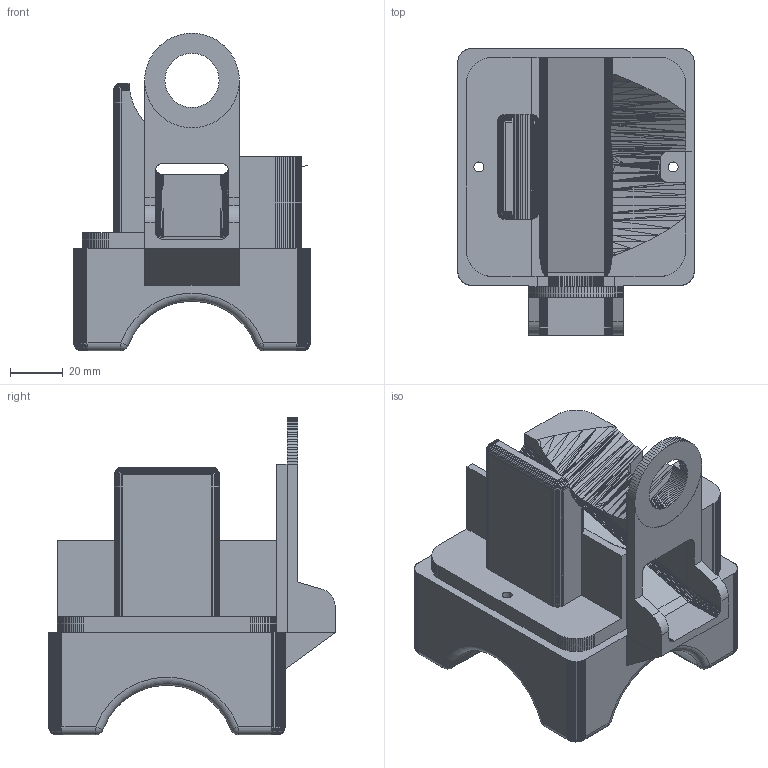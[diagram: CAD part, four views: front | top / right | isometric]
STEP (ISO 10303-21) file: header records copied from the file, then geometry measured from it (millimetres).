
FILE_DESCRIPTION(/* description */ (''),/* implementation_level */ '2;1');
FILE_NAME(/* name */ 'Base_Hole.step',/* time_stamp */ '2022-10-31T08:53:21+03:00',/* author */ (''),/* organization */ (''),/* preprocessor_version */ 'ST-DEVELOPER v19.2',/* originating_system */ 'Autodesk Translation Framework v11.17.0.187',/* authorisation */ '');
FILE_SCHEMA (('AUTOMOTIVE_DESIGN { 1 0 10303 214 3 1 1 }'));
Length unit declared in the file: millimetre
Products named in the file (1): Candy_Machine-_Mason-_Base (1)
Bounding box: 90 x 109.09 x 121 mm (x, y, z)
Volume: 387385.4 mm3; surface area: 68599.6 mm2
Topology: 5 solids, 5 shells, 1897 faces, 4304 edges, 2412 vertices
Faces by surface type: plane 1742, cylinder 135, sphere 12, torus 4, bspline 4
Full cylindrical faces by diameter (mm): 3.8 x4, 8.6 x2
Entity records: 50732 total; most frequent: CARTESIAN_POINT 8967, ORIENTED_EDGE 8600, DIRECTION 8312, EDGE_CURVE 4300, LINE 4052, VECTOR 4052, VERTEX_POINT 2412, AXIS2_PLACEMENT_3D 2130
